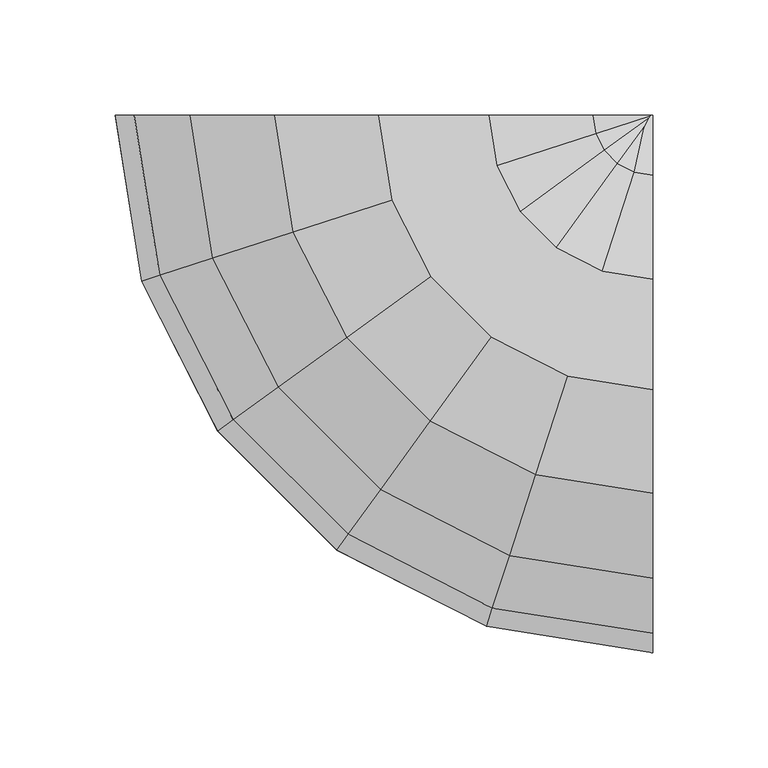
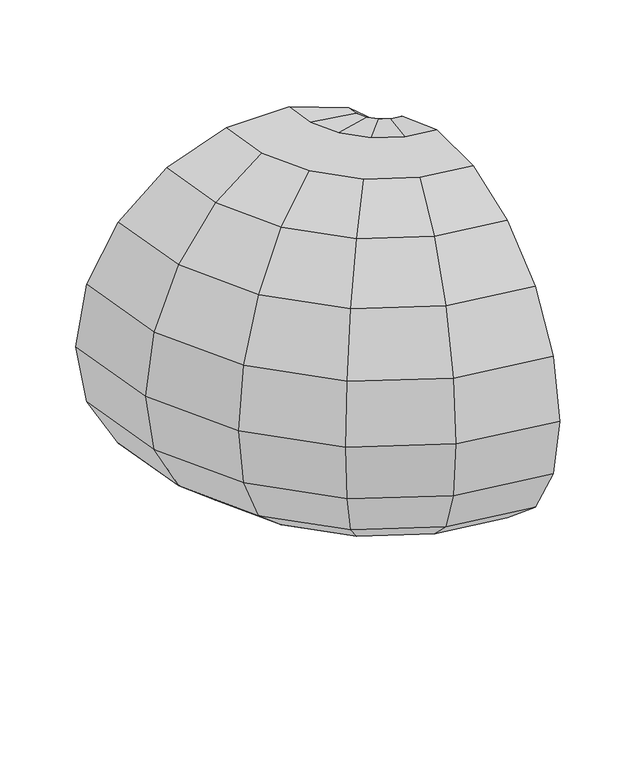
"""IFC4 building model written with IfcOpenShell, lengths in millimetres: proxy geometry, Rohrbogen 259180 : Rohrbogen 259180."""

from ifc_helpers import new_model, si_unit, origin, place, context, project, spatial, triangles, source, transform, mapped, element, save


def generic_models_46b4a44e(model_context):
    return source(origin(), model_context, "Body", "Tessellation", [
        triangles([(14488.2691406, 6351.70009, 5635.6408905), (14488.2691406, 6353.9947174, 5648.654631), (14447.8634674, 6360.3943268, 5648.654631), (14447.1542084, 6358.2119019, 5635.6408905), (14411.4133667, 6378.9670303, 5648.654631), (14410.0646118, 6377.1101669, 5635.6408905), (14382.4860626, 6407.8937531, 5648.654631), (14380.6291992, 6406.5449982, 5635.6408905), (14363.9139404, 6444.3444351, 5648.654631), (14361.7315155, 6443.6351761, 5635.6408905), (14357.5143311, 6484.7501083, 5648.654631), (14355.2191223, 6484.7501083, 5635.6408905), (14488.2691406, 6360.6018723, 5660.0987), (14449.9052032, 6366.6782455, 5660.0987), (14415.2968506, 6384.3120529, 5660.0987), (14387.8310852, 6411.7778183, 5660.0987), (14370.1972778, 6446.386171, 5660.0987), (14364.1209045, 6484.7501083, 5660.0987), (14488.2691406, 6370.7250916, 5668.5929489), (14453.0329193, 6376.3061462, 5668.5929489), (14421.2464874, 6392.5016693, 5668.5929489), (14396.021283, 6417.7280365, 5668.5929489), (14379.8245972, 6449.5144684, 5668.5929489), (14374.2435425, 6484.7501083, 5668.5929489), (14488.2691406, 6383.1429382, 5673.1124405), (14456.8710571, 6388.1158905, 5673.1124405), (14428.5460419, 6402.5481491, 5673.1124405), (14406.0671814, 6425.0270096, 5673.1124405), (14391.6343414, 6453.3514435, 5673.1124405), (14386.6613892, 6484.7501083, 5673.1124405), (14488.2691406, 6396.3572479, 5673.1124405), (14460.9545288, 6400.683728, 5673.1124405), (14436.3130096, 6413.2387756, 5673.1124405), (14416.7583893, 6432.7939774, 5673.1124405), (14404.202179, 6457.4354965, 5673.1124405), (14399.8768616, 6484.7501083, 5673.1124405), (14488.2691406, 6408.7750946, 5668.5929489), (14464.7915039, 6412.4934723, 5668.5929489), (14443.6125641, 6423.2852554, 5668.5929489), (14426.8042877, 6440.0929504, 5668.5929489), (14416.0130859, 6461.2724716, 5668.5929489), (14412.2935455, 6484.7501083, 5668.5929489), (14488.2691406, 6418.8983139, 5660.0987), (14467.91922, 6422.121373, 5660.0987), (14449.5622009, 6431.4748718, 5660.0987), (14434.9933228, 6446.0431686, 5660.0987), (14425.6404053, 6464.400769, 5660.0987), (14422.4173462, 6484.7501083, 5660.0987), (14488.2691406, 6425.5054688, 5648.654631), (14469.9609558, 6428.4052917, 5648.654631), (14453.4456848, 6436.8198944, 5648.654631), (14440.3395081, 6449.9266525, 5648.654631), (14431.9237427, 6466.4425049, 5648.654631), (14429.0239197, 6484.7501083, 5648.654631), (14488.2691406, 6427.8000961, 5635.6408905), (14470.6702148, 6430.5871353, 5635.6408905), (14454.7944397, 6438.6767578, 5635.6408905), (14442.1952087, 6451.2759888, 5635.6408905), (14434.1061676, 6467.1517639, 5635.6408905), (14431.3191284, 6484.7501083, 5635.6408905), (14488.2691406, 6425.5054688, 5622.62715), (14469.9609558, 6428.4052917, 5622.62715), (14453.4456848, 6436.8198944, 5622.62715), (14440.3395081, 6449.9266525, 5622.62715), (14431.9237427, 6466.4425049, 5622.62715), (14429.0239197, 6484.7501083, 5622.62715), (14488.2691406, 6418.8983139, 5611.1824997), (14467.91922, 6422.121373, 5611.1824997), (14449.5622009, 6431.4748718, 5611.1824997), (14434.9933228, 6446.0431686, 5611.1824997), (14425.6404053, 6464.400769, 5611.1824997), (14422.4173462, 6484.7501083, 5611.1824997), (14488.2691406, 6408.7750946, 5602.6882507), (14464.7915039, 6412.4934723, 5602.6882507), (14443.6125641, 6423.2852554, 5602.6882507), (14426.8042877, 6440.0929504, 5602.6882507), (14416.0130859, 6461.2724716, 5602.6882507), (14412.2935455, 6484.7501083, 5602.6882507), (14488.2691406, 6396.3572479, 5598.1687592), (14460.9545288, 6400.683728, 5598.1687592), (14436.3130096, 6413.2387756, 5598.1687592), (14416.7583893, 6432.7939774, 5598.1687592), (14404.202179, 6457.4354965, 5598.1687592), (14399.8768616, 6484.7501083, 5598.1687592), (14488.2691406, 6383.1429382, 5598.1687592), (14456.8710571, 6388.1158905, 5598.1687592), (14428.5460419, 6402.5481491, 5598.1687592), (14406.0671814, 6425.0270096, 5598.1687592), (14391.6343414, 6453.3514435, 5598.1687592), (14386.6613892, 6484.7501083, 5598.1687592), (14488.2691406, 6370.7250916, 5602.6882507), (14453.0329193, 6376.3061462, 5602.6882507), (14421.2464874, 6392.5016693, 5602.6882507), (14396.021283, 6417.7280365, 5602.6882507), (14379.8245972, 6449.5144684, 5602.6882507), (14374.2435425, 6484.7501083, 5602.6882507), (14488.2691406, 6360.6018723, 5611.1824997), (14449.9052032, 6366.6782455, 5611.1824997), (14415.2968506, 6384.3120529, 5611.1824997), (14387.8310852, 6411.7778183, 5611.1824997), (14370.1972778, 6446.386171, 5611.1824997), (14364.1209045, 6484.7501083, 5611.1824997), (14488.2691406, 6353.9947174, 5622.62715), (14447.8634674, 6360.3943268, 5622.62715), (14411.4133667, 6378.9670303, 5622.62715), (14382.4860626, 6407.8937531, 5622.62715), (14363.9139404, 6444.3444351, 5622.62715), (14357.5143311, 6484.7501083, 5622.62715), (14488.2691406, 6251.6997986, 5635.6408905), (14488.2691406, 6260.0254532, 5682.8566132), (14418.825705, 6271.0242004, 5682.8566132), (14416.2526062, 6263.1060791, 5635.6408905), (14356.1795288, 6302.9443451, 5682.8566132), (14351.2856415, 6296.2087097, 5635.6408905), (14306.462796, 6352.6604965, 5682.8566132), (14299.7271606, 6347.7666092, 5635.6408905), (14274.5438141, 6415.3060913, 5682.8566132), (14266.6256927, 6412.7335739, 5635.6408905), (14263.5444855, 6484.7501083, 5682.8566132), (14255.2194122, 6484.7501083, 5635.6408905), (14488.2691406, 6283.9978271, 5724.3773346), (14426.2333923, 6293.8233902, 5724.3773346), (14370.2693665, 6322.3379288, 5724.3773346), (14325.8569611, 6366.7509155, 5724.3773346), (14297.3424225, 6422.71436, 5724.3773346), (14287.5162781, 6484.7501083, 5724.3773346), (14488.2691406, 6320.7252365, 5755.1958023), (14437.5826996, 6328.7532349, 5755.1958023), (14391.8575836, 6352.0512314, 5755.1958023), (14355.5702637, 6388.3385513, 5755.1958023), (14332.2716858, 6434.0636673, 5755.1958023), (14324.2442688, 6484.7501083, 5755.1958023), (14488.2691406, 6365.7777191, 5771.5936386), (14451.5051056, 6371.6006195, 5771.5936386), (14418.3385254, 6388.499588, 5771.5936386), (14392.0180389, 6414.8200745, 5771.5936386), (14375.1202332, 6447.9854919, 5771.5936386), (14369.2973328, 6484.7501083, 5771.5936386), (14488.2691406, 6413.722467, 5771.5936386), (14466.3204803, 6417.1984177, 5771.5936386), (14446.5205261, 6427.2873367, 5771.5936386), (14430.806369, 6443.0009125, 5771.5936386), (14420.71745, 6462.8014481, 5771.5936386), (14417.240918, 6484.7501083, 5771.5936386), (14488.2691406, 6458.7749496, 5755.1958023), (14480.2428864, 6460.0463837, 5755.1958023), (14473.0014679, 6463.7356934, 5755.1958023), (14467.255307, 6469.4824356, 5755.1958023), (14463.5648346, 6476.7232727, 5755.1958023), (14462.2939819, 6484.7501083, 5755.1958023), (14488.2691406, 6484.7501083, 5733.4000397), (14485.8355682, 6484.7501083, 5733.7232758), (14485.8355682, 6484.7501083, 5537.5585052), (14480.2428864, 6460.0463837, 5516.0859787), (14488.2691406, 6484.7501083, 5537.8817413), (14488.2691406, 6458.7749496, 5516.0859787), (14473.0014679, 6463.7356934, 5516.0859787), (14467.255307, 6469.4824356, 5516.0859787), (14463.5648346, 6476.7232727, 5516.0859787), (14462.2939819, 6484.7501083, 5516.0859787), (14488.2691406, 6413.722467, 5499.6881424), (14466.3204803, 6417.1984177, 5499.6881424), (14446.5205261, 6427.2873367, 5499.6881424), (14430.806369, 6443.0009125, 5499.6881424), (14420.71745, 6462.8014481, 5499.6881424), (14417.240918, 6484.7501083, 5499.6881424), (14488.2691406, 6365.7777191, 5499.6881424), (14451.5051056, 6371.6006195, 5499.6881424), (14418.3385254, 6388.499588, 5499.6881424), (14392.0180389, 6414.8200745, 5499.6881424), (14375.1202332, 6447.9854919, 5499.6881424), (14369.2973328, 6484.7501083, 5499.6881424), (14488.2691406, 6320.7252365, 5516.0859787), (14437.5826996, 6328.7532349, 5516.0859787), (14391.8575836, 6352.0512314, 5516.0859787), (14355.5702637, 6388.3385513, 5516.0859787), (14332.2716858, 6434.0636673, 5516.0859787), (14324.2442688, 6484.7501083, 5516.0859787), (14488.2691406, 6283.9978271, 5546.9038651), (14426.2333923, 6293.8233902, 5546.9038651), (14370.2693665, 6322.3379288, 5546.9038651), (14325.8569611, 6366.7509155, 5546.9038651), (14297.3424225, 6422.71436, 5546.9038651), (14287.5162781, 6484.7501083, 5546.9038651), (14488.2691406, 6260.0254532, 5588.4251678), (14418.825705, 6271.0242004, 5588.4251678), (14356.1795288, 6302.9443451, 5588.4251678), (14306.462796, 6352.6604965, 5588.4251678), (14274.5438141, 6415.3060913, 5588.4251678), (14263.5444855, 6484.7501083, 5588.4251678)], [[4, 1, 3], [2, 3, 1], [6, 4, 3], [3, 5, 6], [8, 6, 5], [5, 7, 8], [10, 8, 7], [7, 9, 10], [12, 10, 9], [9, 11, 12], [3, 2, 14], [13, 14, 2], [5, 3, 15], [14, 15, 3], [7, 5, 16], [15, 16, 5], [9, 7, 17], [16, 17, 7], [11, 9, 18], [17, 18, 9], [14, 13, 19], [19, 20, 14], [15, 14, 20], [20, 21, 15], [16, 15, 21], [21, 22, 16], [17, 16, 23], [22, 23, 16], [18, 17, 23], [23, 24, 18], [20, 19, 25], [25, 26, 20], [21, 20, 27], [26, 27, 20], [22, 21, 28], [27, 28, 21], [23, 22, 29], [28, 29, 22], [24, 23, 30], [29, 30, 23], [26, 25, 31], [31, 32, 26], [27, 26, 32], [32, 33, 27], [28, 27, 33], [33, 34, 28], [29, 28, 34], [34, 35, 29], [30, 29, 35], [35, 36, 30], [32, 31, 38], [37, 38, 31], [33, 32, 39], [38, 39, 32], [34, 33, 40], [39, 40, 33], [35, 34, 41], [40, 41, 34], [36, 35, 42], [41, 42, 35], [38, 37, 43], [43, 44, 38], [39, 38, 45], [44, 45, 38], [40, 39, 45], [45, 46, 40], [41, 40, 46], [46, 47, 41], [42, 41, 47], [47, 48, 42], [44, 43, 49], [49, 50, 44], [45, 44, 50], [50, 51, 45], [46, 45, 51], [51, 52, 46], [47, 46, 53], [52, 53, 46], [48, 47, 54], [53, 54, 47], [50, 49, 55], [55, 56, 50], [51, 50, 57], [56, 57, 50], [52, 51, 58], [57, 58, 51], [53, 52, 58], [58, 59, 53], [54, 53, 59], [59, 60, 54], [56, 55, 61], [61, 62, 56], [57, 56, 62], [62, 63, 57], [58, 57, 64], [63, 64, 57], [59, 58, 65], [64, 65, 58], [60, 59, 66], [65, 66, 59], [62, 61, 68], [67, 68, 61], [63, 62, 69], [68, 69, 62], [64, 63, 70], [69, 70, 63], [65, 64, 71], [70, 71, 64], [66, 65, 71], [71, 72, 66], [68, 67, 73], [73, 74, 68], [69, 68, 74], [74, 75, 69], [70, 69, 75], [75, 76, 70], [71, 70, 77], [76, 77, 70], [72, 71, 78], [77, 78, 71], [74, 73, 80], [79, 80, 73], [75, 74, 80], [80, 81, 75], [76, 75, 81], [81, 82, 76], [77, 76, 82], [82, 83, 77], [78, 77, 83], [83, 84, 78], [80, 79, 86], [85, 86, 79], [81, 80, 87], [86, 87, 80], [82, 81, 88], [87, 88, 81], [83, 82, 89], [88, 89, 82], [84, 83, 90], [89, 90, 83], [86, 85, 92], [91, 92, 85], [87, 86, 92], [92, 93, 87], [88, 87, 93], [93, 94, 88], [89, 88, 94], [94, 95, 89], [90, 89, 95], [95, 96, 90], [92, 91, 98], [97, 98, 91], [93, 92, 99], [98, 99, 92], [94, 93, 100], [99, 100, 93], [95, 94, 101], [100, 101, 94], [96, 95, 102], [101, 102, 95], [98, 97, 103], [103, 104, 98], [99, 98, 104], [104, 105, 99], [100, 99, 105], [105, 106, 100], [101, 100, 106], [106, 107, 101], [102, 101, 107], [107, 108, 102], [104, 103, 1], [1, 4, 104], [105, 104, 6], [4, 6, 104], [106, 105, 8], [6, 8, 105], [107, 106, 10], [8, 10, 106], [108, 107, 12], [10, 12, 107], [112, 109, 111], [110, 111, 109], [114, 112, 113], [111, 113, 112], [116, 114, 115], [113, 115, 114], [118, 116, 117], [115, 117, 116], [120, 118, 119], [117, 119, 118], [111, 110, 121], [121, 122, 111], [113, 111, 122], [122, 123, 113], [115, 113, 123], [123, 124, 115], [117, 115, 124], [124, 125, 117], [119, 117, 125], [125, 126, 119], [122, 121, 127], [127, 128, 122], [123, 122, 128], [128, 129, 123], [124, 123, 130], [129, 130, 123], [125, 124, 131], [130, 131, 124], [126, 125, 131], [131, 132, 126], [128, 127, 133], [133, 134, 128], [129, 128, 134], [134, 135, 129], [130, 129, 136], [135, 136, 129], [131, 130, 137], [136, 137, 130], [132, 131, 138], [137, 138, 131], [134, 133, 139], [139, 140, 134], [135, 134, 140], [140, 141, 135], [136, 135, 142], [141, 142, 135], [137, 136, 143], [142, 143, 136], [138, 137, 143], [143, 144, 138], [140, 139, 145], [145, 146, 140], [141, 140, 146], [146, 147, 141], [142, 141, 148], [147, 148, 141], [143, 142, 148], [148, 149, 143], [144, 143, 150], [149, 150, 143], [151, 146, 152], [151, 152, 145], [146, 145, 152], [147, 146, 151], [148, 147, 151], [149, 148, 151], [150, 149, 151], [155, 153, 154], [156, 154, 153], [153, 155, 156], [154, 157, 155], [155, 157, 158], [158, 159, 155], [159, 160, 155], [154, 156, 162], [161, 162, 156], [157, 154, 163], [162, 163, 154], [158, 157, 163], [163, 164, 158], [159, 158, 164], [164, 165, 159], [160, 159, 166], [165, 166, 159], [162, 161, 168], [167, 168, 161], [163, 162, 169], [168, 169, 162], [164, 163, 169], [169, 170, 164], [165, 164, 170], [170, 171, 165], [166, 165, 172], [171, 172, 165], [168, 167, 174], [173, 174, 167], [169, 168, 174], [174, 175, 169], [170, 169, 175], [175, 176, 170], [171, 170, 176], [176, 177, 171], [172, 171, 177], [177, 178, 172], [174, 173, 180], [179, 180, 173], [175, 174, 181], [180, 181, 174], [176, 175, 181], [181, 182, 176], [177, 176, 182], [182, 183, 177], [178, 177, 184], [183, 184, 177], [180, 179, 186], [185, 186, 179], [181, 180, 186], [186, 187, 181], [182, 181, 188], [187, 188, 181], [183, 182, 189], [188, 189, 182], [184, 183, 190], [189, 190, 183], [186, 185, 112], [109, 112, 185], [187, 186, 112], [112, 114, 187], [188, 187, 114], [114, 116, 188], [189, 188, 116], [116, 118, 189], [190, 189, 118], [118, 120, 190]], closed=False),
    ])


if __name__ == "__main__":
    model = new_model("IFC4")
    model_context = context("Model", 3, world=origin())
    ifc_project = project(units=[si_unit("LENGTHUNIT", "METRE", prefix="MILLI")], contexts=[model_context])
    site = spatial("IfcSite", under=ifc_project)
    building = spatial("IfcBuilding", under=site)
    placement = place(None, origin())
    generic_models_shape = generic_models_46b4a44e(model_context)
    element("IfcBuildingElementProxy", 1, Name="Rohrbogen 259180 : Rohrbogen 259180", ObjectType="Rohrbogen 259180 : Rohrbogen 259180", at=placement, inside=building, context=model_context, shape_type="MappedRepresentation", body=[
        mapped(generic_models_shape, transform((0.0, 0.0, 0.0), x_axis=(1.0, 0.0, 0.0), y_axis=(0.0, 1.0, 0.0), z_axis=(0.0, 0.0, 1.0))),
    ])
    save(model, "model.ifc")
